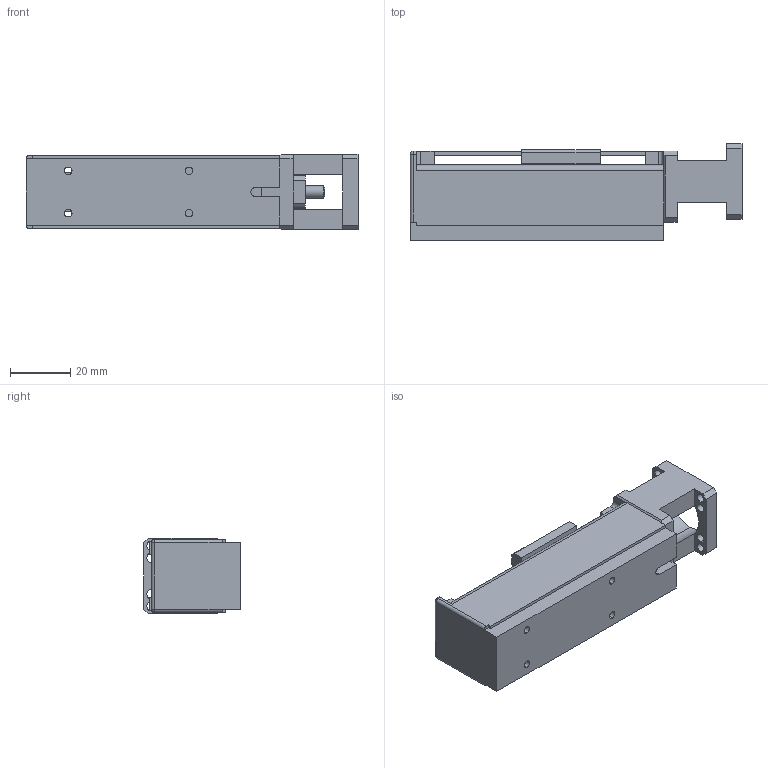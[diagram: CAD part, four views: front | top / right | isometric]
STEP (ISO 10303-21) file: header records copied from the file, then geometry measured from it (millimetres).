
FILE_DESCRIPTION (( 'STEP AP203' ), '1' );
FILE_NAME ('FAS-020.STEP', '2015-08-25T04:51:00', ( '' ), ( '' ), 'SwSTEP 2.0', 'SolidWorks 2015', '' );
FILE_SCHEMA (( 'CONFIG_CONTROL_DESIGN' ));
Length unit declared in the file: millimetre
Products named in the file (1): FAS-020
Bounding box: 110 x 32 x 25 mm (x, y, z)
Volume: 37565.2 mm3; surface area: 23422.3 mm2
Topology: 2 solids, 2 shells, 146 faces, 417 edges, 270 vertices
Faces by surface type: plane 90, cylinder 52, cone 2, sphere 2
Entity records: 4884 total; most frequent: CARTESIAN_POINT 832, ORIENTED_EDGE 830, DIRECTION 819, EDGE_CURVE 415, VECTOR 305, LINE 305, VERTEX_POINT 270, AXIS2_PLACEMENT_3D 257
